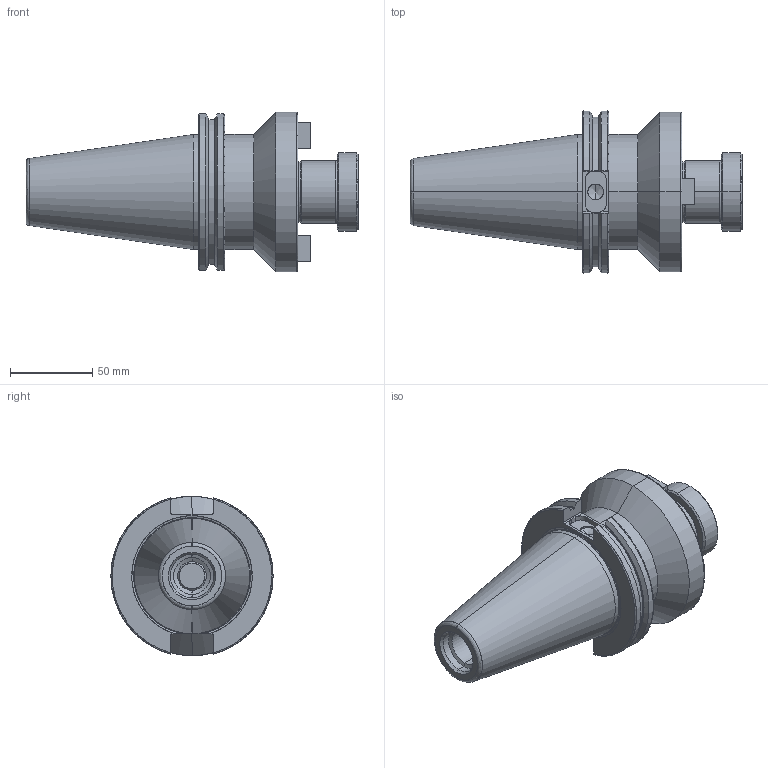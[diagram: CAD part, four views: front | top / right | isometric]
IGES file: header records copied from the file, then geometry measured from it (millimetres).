
Start section: SolidWorks IGES file using analytic representation for surfaces
Global section: file name: C:\ProgramData\Alignex\DDS\processing\files\C6S4-1500\igs\C6S4-1500.igs; native system: SolidWorks 2013; preprocessor: SolidWorks 2013; author: SYSTEM; date: 130213.155941; units: inch
Bounding box: 201.56 x 98.42 x 96.85 mm (x, y, z)
Surface area: 76602 mm2 (no closed solid volume)
Topology: 0 solids, 0 shells, 247 faces, 3262 edges, 3250 vertices
Faces by surface type: revolution 127, bspline 120
